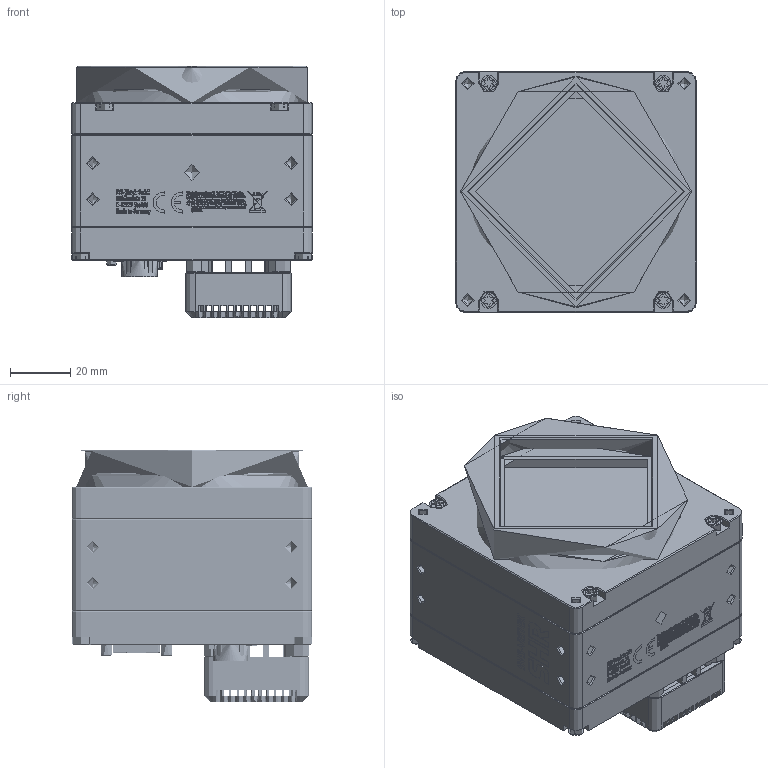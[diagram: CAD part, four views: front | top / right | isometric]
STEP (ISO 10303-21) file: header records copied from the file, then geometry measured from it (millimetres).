
FILE_DESCRIPTION (( 'STEP AP214' ), '1' );
FILE_NAME ('F004104-01001 SHR461CXGE.STEP', '2021-02-23T10:32:17', ( '' ), ( '' ), 'SwSTEP 2.0', 'SolidWorks 2020', '' );
FILE_SCHEMA (( 'AUTOMOTIVE_DESIGN' ));
Length unit declared in the file: millimetre
Products named in the file (35): E001478-00000 Kühlpad 27x27x2,0mm; E002258-00000 M2x4 FK; E001484-00000 Kühlpad 35 x 5 x 2 mm; HRS10A-12R-12PB(71) Body; E002875-02001 Rückplatte SHR411xXGE Lackierstufe Fertigteil -  lackiert und Tampondruck_CXP2; E002740-01001 Lüfter HR2 - Fan axial 30x30x10mm 5VDC Tacho; N000053-00000 Inbusschrauben M2x8 DIN912 Edelstahl; B004265-01001 Defiant_NBse-T_E005309 Steckerpaar; E001493-00000 Kühlpad 18 x 18 x2mm; E004058-01001 Dichtung mit Sensorfenster SHR461; E002478-01002 Haltering SHR47051 f黵 Deckglas d_71; E002400-03001 Montage Flansch HRS10A; E002734-02001 Bügel Sensor IMX411; GE-Honda; N000054-00000 Schraube M3x12 Torx ISO14580; HRS10A Pin; E002082 Lichtleiter Mentor 1282.2000; N000081-00000 Zylinderstift ISO 2338 2m6 x 8 Edelstahl; E004036-01001 Deckglas SHR d_71; IMX461ALR Base; E001471-00000 Kühlpad 27x27x3,0mm; IMX461ALR Glass; N000031-00000 SCHRAUBE M2x4 Torx ISO14583_M2x04; N000096-00000 Senkkopfschraube ISO 14581 A2 M2x16; HRS12 Mutter; E002892-01001 Frontplatte SHR461 Lackierstufe Fertigteil - lackiert_Standard 19,55mm mit Schutzglas; E001488-00000 Kühlpad 10x12x1,5mm; E004054-01001 Distanzring SHR411 f黵 Deckglas d=71,0; Baugruppe Sensor Bügel IMX461; IMX461ALR; HRS10A-12R-12PB(71); F004104-01001 SHR461CXGE; E002867-01001 Lüfterkäfig SHR leise Fertigteil -  lackiert; E002846-03001 Mittelteil SHR411 Fertigteil Lackierstufe - lackiert und Tampondruck_Step; N000064-00000 Abstandsbolzen M2x10_Abstandshalter M2x8
Assembly tree (73 placements, depth 4):
  F004104-01001 SHR461CXGE
    E002892-01001 Frontplatte SHR461 Lackierstufe Fertigteil - lackiert_Standard 19,55mm mit Schutzglas
    E002846-03001 Mittelteil SHR411 Fertigteil Lackierstufe - lackiert und Tampondruck_Step
    E002875-02001 Rückplatte SHR411xXGE Lackierstufe Fertigteil -  lackiert und Tampondruck_CXP2
    Baugruppe Sensor Bügel IMX461
      E002734-02001 Bügel Sensor IMX411  x2
      IMX461ALR
        IMX461ALR Base
        IMX461ALR Glass
    B004265-01001 Defiant_NBse-T_E005309 Steckerpaar
    E004036-01001 Deckglas SHR d_71
    E004054-01001 Distanzring SHR411 f黵 Deckglas d=71,0
    E004058-01001 Dichtung mit Sensorfenster SHR461
    E002478-01002 Haltering SHR47051 f黵 Deckglas d_71
    E002082 Lichtleiter Mentor 1282.2000
    E002258-00000 M2x4 FK  x6
    E002400-03001 Montage Flansch HRS10A
    HRS10A-12R-12PB(71)
      HRS10A Pin  x12
      HRS10A-12R-12PB(71) Body
    HRS12 Mutter
    N000031-00000 SCHRAUBE M2x4 Torx ISO14583_M2x04  x4
    N000064-00000 Abstandsbolzen M2x10_Abstandshalter M2x8  x4
    N000081-00000 Zylinderstift ISO 2338 2m6 x 8 Edelstahl  x4
    N000096-00000 Senkkopfschraube ISO 14581 A2 M2x16  x3
    E002867-01001 Lüfterkäfig SHR leise Fertigteil -  lackiert
    E002740-01001 Lüfter HR2 - Fan axial 30x30x10mm 5VDC Tacho
    N000054-00000 Schraube M3x12 Torx ISO14580  x8
    N000053-00000 Inbusschrauben M2x8 DIN912 Edelstahl  x4
    E001478-00000 Kühlpad 27x27x2,0mm
    E001484-00000 Kühlpad 35 x 5 x 2 mm  x2
    E001471-00000 Kühlpad 27x27x3,0mm
    E001493-00000 Kühlpad 18 x 18 x2mm
    E001488-00000 Kühlpad 10x12x1,5mm
    GE-Honda
Bounding box: 80 x 80 x 83.65 mm (x, y, z)
Topology: 76 solids, 306 shells, 13613 faces, 43699 edges, 30520 vertices
Faces by surface type: plane 7638, bspline 3603, cylinder 1843, cone 401, torus 80, sphere 48
Full cylindrical faces by diameter (mm): 0.6 x4, 0.8 x36, 1.1 x2, 1.2 x12, 1.5 x4, 1.6 x15, 1.674 x52, 1.8 x7, 1.98 x2, 2 x29, 2.05 x2, 2.1 x8, 2.2 x7, 2.5 x9, 2.8 x1, 2.85 x1, 2.96 x8, 3 x3, 3.2 x8, 3.3 x20, 3.4 x4, 3.5 x6, 3.8 x2, 4 x10, 4.2 x4, 5.105 x1, 5.4 x8, 9 x1, 10.5 x1, 11 x1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
Entity records: 632318 total; most frequent: CARTESIAN_POINT 157489, ORIENTED_EDGE 75901, DIRECTION 60015, EDGE_CURVE 42434, VERTEX_POINT 30411, VECTOR 30085, LINE 30085, EDGE_LOOP 16134
